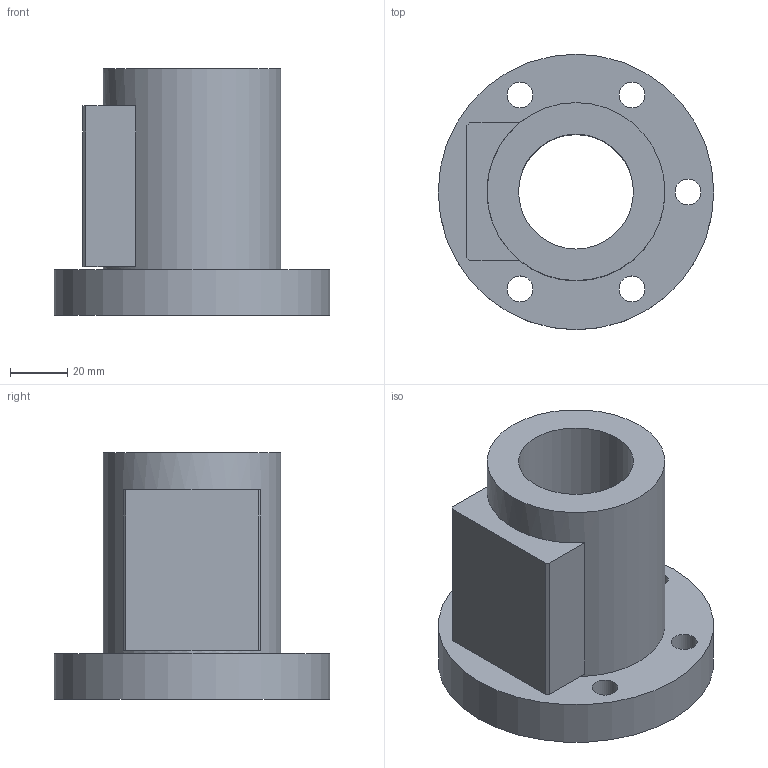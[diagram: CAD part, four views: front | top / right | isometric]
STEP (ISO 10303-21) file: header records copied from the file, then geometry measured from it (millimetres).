
FILE_DESCRIPTION(/* description */ (''),/* implementation_level */ '2;1');
FILE_NAME(/* name */ '40-8B2',/* time_stamp */ '2006-07-31T10:08:28+08:00',/* author */ (''),/* organization */ (''),/* preprocessor_version */ 'ST-DEVELOPER v9',/* originating_system */ 'UGS - NX 4.0',/* authorisation */ '');
FILE_SCHEMA (('CONFIG_CONTROL_DESIGN'));
Length unit declared in the file: millimetre
Products named in the file (1): 40-8B2
Bounding box: 96 x 96 x 86 mm (x, y, z)
Volume: 238213.8 mm3; surface area: 46132.5 mm2
Topology: 1 solids, 1 shells, 28 faces, 61 edges, 42 vertices
Faces by surface type: plane 15, cylinder 13
Full cylindrical faces by diameter (mm): 9 x5, 14 x5, 40 x1, 62 x1, 96 x1
Entity records: 794 total; most frequent: DIRECTION 130, CARTESIAN_POINT 111, ORIENTED_EDGE 88, EDGE_LOOP 60, AXIS2_PLACEMENT_3D 57, FACE_BOUND 45, EDGE_CURVE 44, VERTEX_POINT 38
